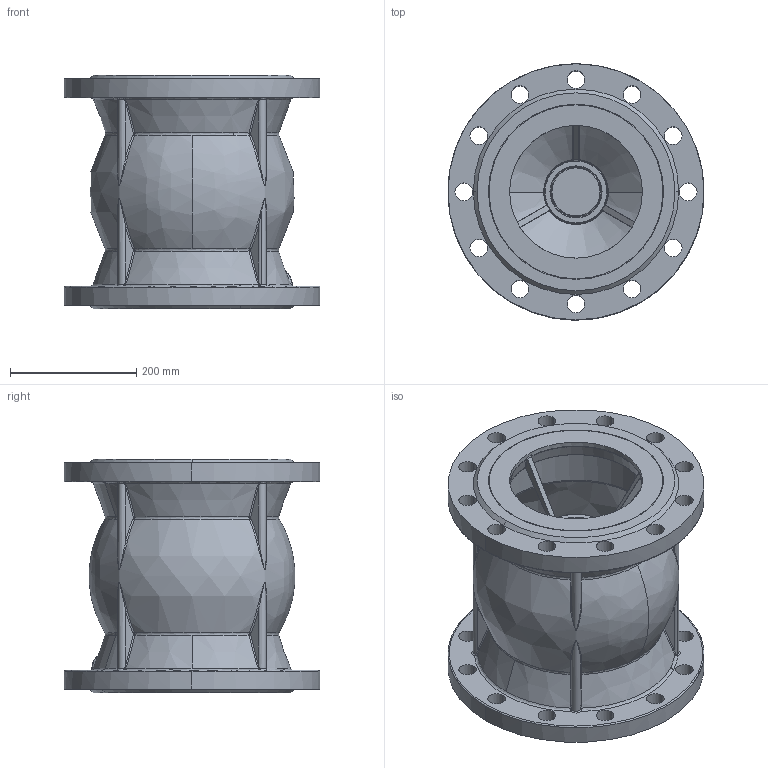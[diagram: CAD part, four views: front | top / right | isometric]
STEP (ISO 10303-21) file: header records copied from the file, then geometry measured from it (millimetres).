
FILE_DESCRIPTION (( 'STEP AP203' ), '1' );
FILE_NAME ('0.STEP', '2017-04-05T13:32:47', ( 'User' ), ( 'shendu' ), 'SwSTEP 2.0', 'SolidWorks 2015', '' );
FILE_SCHEMA (( 'CONFIG_CONTROL_DESIGN' ));
Products named in the file (1): 0
Bounding box: 405 x 405 x 370 mm (x, y, z)
Volume: 10980974.6 mm3; surface area: 1628426.2 mm2
Topology: 6 solids, 6 shells, 697 faces, 1643 edges, 930 vertices
Faces by surface type: bspline 442, cylinder 155, plane 56, cone 44
Entity records: 244724 total; most frequent: CARTESIAN_POINT 232082, ORIENTED_EDGE 3214, EDGE_CURVE 1607, DIRECTION 1523, B_SPLINE_CURVE_WITH_KNOTS 934, VERTEX_POINT 930, EDGE_LOOP 767, FACE_OUTER_BOUND 697
